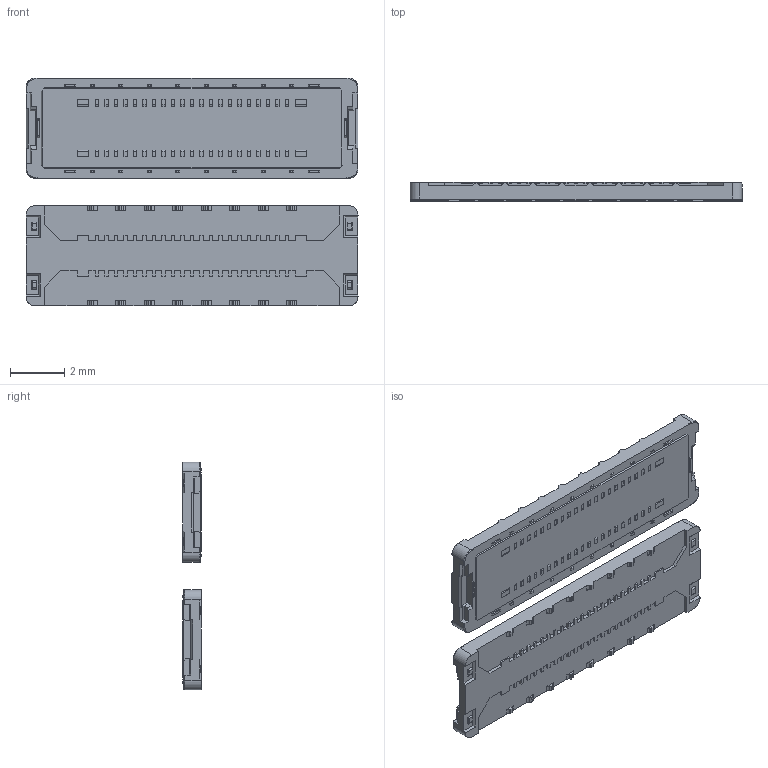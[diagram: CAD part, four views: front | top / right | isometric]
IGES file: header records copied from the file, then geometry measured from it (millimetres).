
Start section: SolidWorks IGES file using analytic representation for surfaces
Global section: file name: C:\3dwork\Baba\20230721 NOVA25-HDP WITH CAP 2IN1 HIMƒ‚ƒfƒ‹\3Dƒ‚ƒfƒ‹—p\STEP&IGES\21001-042E-01C NOVASTACK 35-HDP WITH CAP 2-IN-1 MATING IGES R1 ALL.IGS; native system: SolidWorks 2020; preprocessor: SolidWorks 2020; author: 83109; date: 230801.134412; units: millimetre
Bounding box: 12.24 x 0.7 x 8.4 mm (x, y, z)
Surface area: 235.1 mm2 (no closed solid volume)
Topology: 0 solids, 0 shells, 1646 faces, 9424 edges, 9424 vertices
Faces by surface type: bspline 1234, revolution 412
